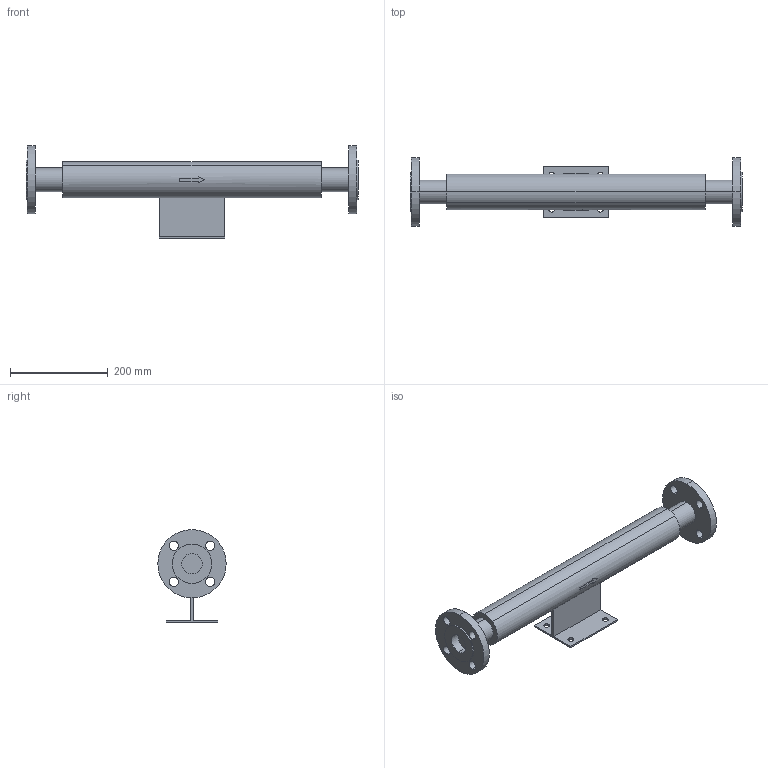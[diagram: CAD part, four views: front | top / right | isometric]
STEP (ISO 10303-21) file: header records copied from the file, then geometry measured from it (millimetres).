
FILE_DESCRIPTION( (''), '2;1');
FILE_NAME ('PC1027.9516.EB-12_40A_26054.stp','2025-07-30T09:00:13',(''),(''),'spGate 20.6.3 (****-****-****-****)','','');
FILE_SCHEMA (('AUTOMOTIVE_DESIGN'));
Length unit declared in the file: millimetre
Bounding box: 680 x 140 x 190 mm (x, y, z)
Volume: 2985488.3 mm3; surface area: 275973.8 mm2
Topology: 1 solids, 1 shells, 77 faces, 194 edges, 130 vertices
Faces by surface type: cylinder 42, plane 35
Entity records: 3921 total; most frequent: CARTESIAN_POINT 451, DIRECTION 396, ORIENTED_EDGE 388, COLOUR_RGB 272, PRESENTATION_STYLE_ASSIGNMENT 272, STYLED_ITEM 272, EDGE_CURVE 194, DRAUGHTING_PRE_DEFINED_CURVE_FONT 194
